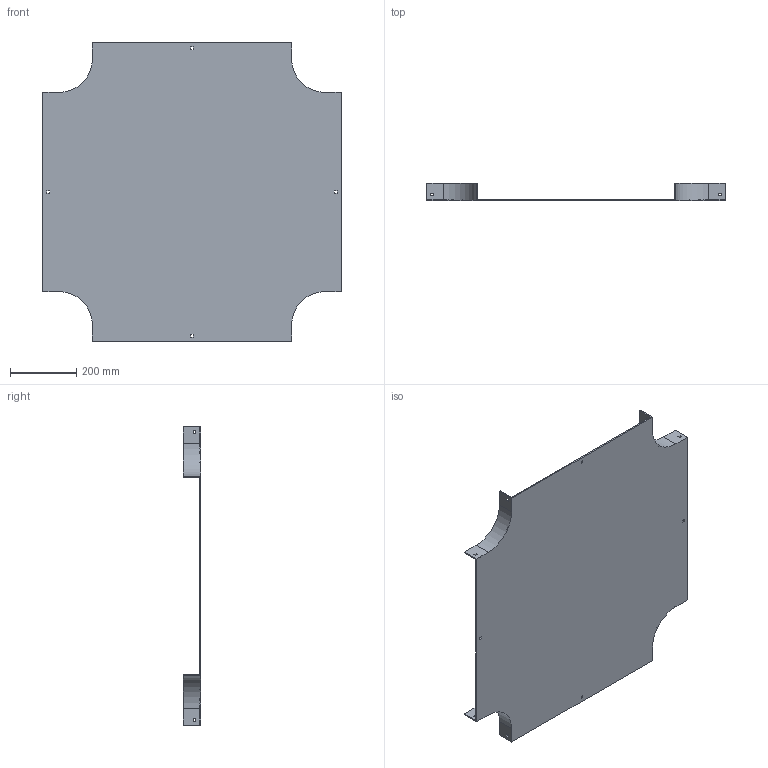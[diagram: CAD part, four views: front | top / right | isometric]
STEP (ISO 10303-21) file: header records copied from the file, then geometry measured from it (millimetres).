
FILE_DESCRIPTION (( 'STEP AP214' ), '1' );
FILE_NAME ('17B1B600.step', '2025-02-21T09:57:26', ( '' ), ( '' ), 'SwSTEP 2.0', 'SolidWorks 2023', '' );
FILE_SCHEMA (( 'AUTOMOTIVE_DESIGN' ));
Length unit declared in the file: millimetre
Products named in the file (1): 17B1B600
Bounding box: 904 x 52 x 904 mm (x, y, z)
Volume: 2748944.8 mm3; surface area: 1585624.7 mm2
Topology: 1 solids, 1 shells, 82 faces, 240 edges, 160 vertices
Faces by surface type: plane 74, cylinder 8
Entity records: 2751 total; most frequent: CARTESIAN_POINT 483, ORIENTED_EDGE 480, DIRECTION 422, EDGE_CURVE 240, LINE 224, VECTOR 224, VERTEX_POINT 160, EDGE_LOOP 106
